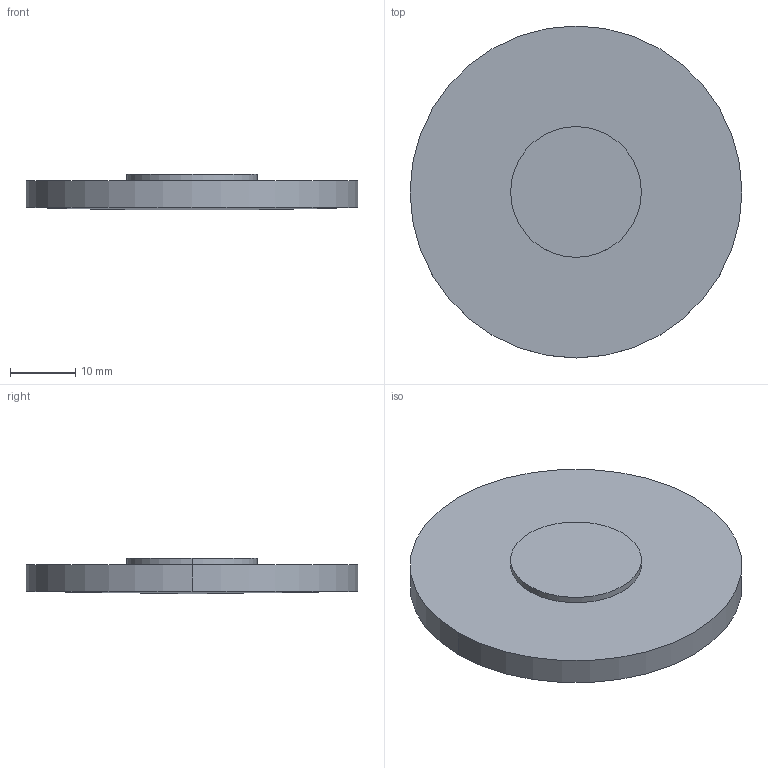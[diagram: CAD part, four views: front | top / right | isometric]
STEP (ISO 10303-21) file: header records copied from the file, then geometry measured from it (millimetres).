
FILE_DESCRIPTION(('STEP AP214'),'1');
FILE_NAME('LLZ-51610.STEP','2020-03-09T17:42:39',(' '),(' '),'Spatial InterOp 3D',' ',' ');
FILE_SCHEMA(('AUTOMOTIVE_DESIGN { 1 0 10303 214 1 1 1 1 }'));
Length unit declared in the file: millimetre
Products named in the file (1): 1
Bounding box: 50.8 x 50.8 x 5.5 mm (x, y, z)
Volume: 9049.4 mm3; surface area: 5402.7 mm2
Topology: 2 solids, 2 shells, 9 faces, 16 edges, 9 vertices
Faces by surface type: cylinder 4, plane 3, sphere 2
Entity records: 229 total; most frequent: DIRECTION 46, CARTESIAN_POINT 34, ORIENTED_EDGE 28, AXIS2_PLACEMENT_3D 21, EDGE_CURVE 14, CIRCLE 10, ADVANCED_FACE 9, FACE_OUTER_BOUND 9
